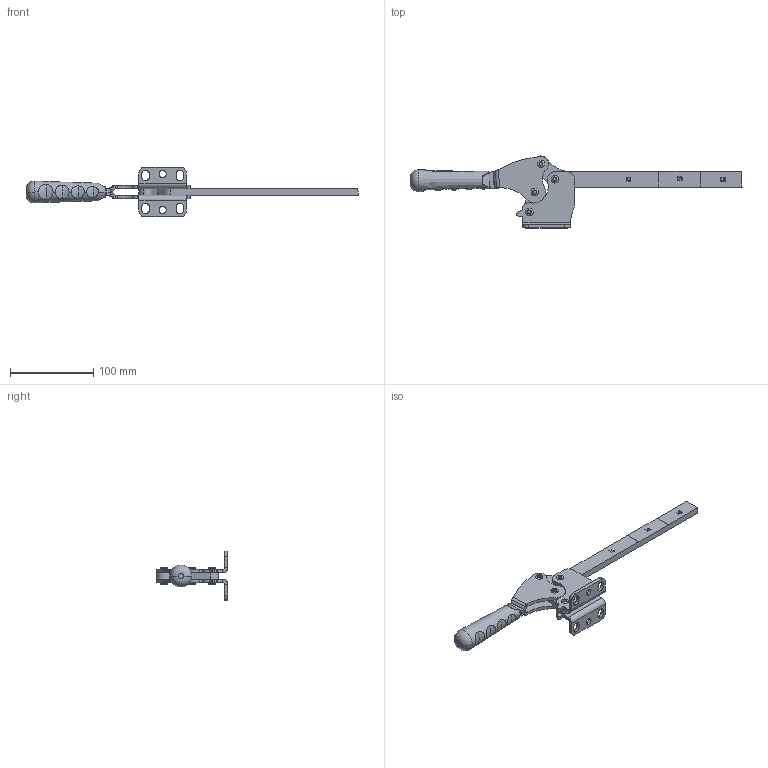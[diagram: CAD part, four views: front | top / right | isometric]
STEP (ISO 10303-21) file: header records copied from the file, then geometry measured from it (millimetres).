
FILE_DESCRIPTION (( 'STEP AP203' ), '1' );
FILE_NAME ('1264_Y_L_MONTAJ.STEP', '2022-04-26T14:10:14', ( '' ), ( '' ), 'SwSTEP 2.0', 'SolidWorks 2020', '' );
FILE_SCHEMA (( 'CONFIG_CONTROL_DESIGN' ));
Length unit declared in the file: millimetre
Products named in the file (9): Aynalama1264_HAREKET_KOLU; 1264 Y-D Gövde; 1264_MAFSAL; 1264_LAMA_BASKI_KOLU; 1264_HAREKET_KOLU; Aynalama1264 Y-D Gövde; 6x21_PERﾇﾝN; 1264_Y_L_MONTAJ; C95_Yeni_Tutamak
Assembly tree (11 placements, depth 2):
  1264_Y_L_MONTAJ
    1264 Y-D Gövde
    1264_HAREKET_KOLU
    Aynalama1264 Y-D Gövde
    Aynalama1264_HAREKET_KOLU
    1264_MAFSAL
    6x21_PERﾇﾝN  x4
    1264_LAMA_BASKI_KOLU
    C95_Yeni_Tutamak
Bounding box: 399.4 x 86.56 x 59.8 mm (x, y, z)
Volume: 137808.6 mm3; surface area: 68609.5 mm2
Topology: 11 solids, 11 shells, 638 faces, 1653 edges, 1062 vertices
Faces by surface type: plane 379, cylinder 188, torus 36, bspline 31, sphere 2, cone 2
Entity records: 17165 total; most frequent: CARTESIAN_POINT 4488, ORIENTED_EDGE 2466, DIRECTION 2356, EDGE_CURVE 1233, LINE 808, VECTOR 808, VERTEX_POINT 798, AXIS2_PLACEMENT_3D 774
